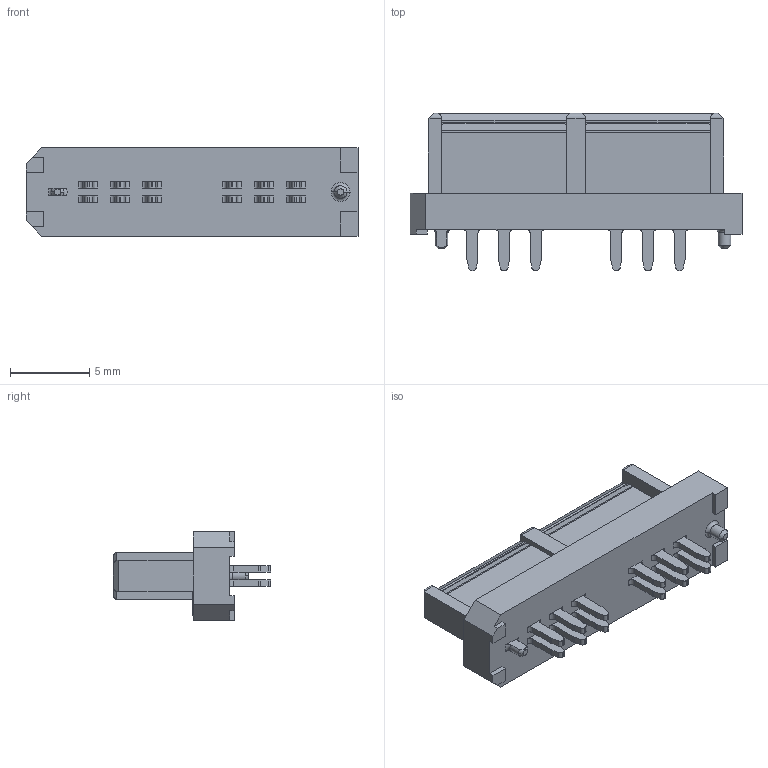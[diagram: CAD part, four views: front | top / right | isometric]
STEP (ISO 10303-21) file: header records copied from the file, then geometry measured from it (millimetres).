
FILE_DESCRIPTION(/* description */ (''),/* implementation_level */ '2;1');
FILE_NAME(/* name */ '3D_PDC1110B0005.stp',/* time_stamp */ '2022-02-17T18:17:58+08:00',/* author */ (''),/* organization */ ('Prolanv'),/* preprocessor_version */ 'ST-DEVELOPER v16.7',/* originating_system */ 'SIEMENS PLM Software NX 1926',/* authorisation */ '');
FILE_SCHEMA (('CONFIG_CONTROL_DESIGN'));
Length unit declared in the file: millimetre
Products named in the file (1): _model1
Bounding box: 21 x 9.95 x 5.6 mm (x, y, z)
Volume: 409.7 mm3; surface area: 749.1 mm2
Topology: 1 solids, 1 shells, 426 faces, 1207 edges, 808 vertices
Faces by surface type: plane 257, cylinder 142, extrusion 19, cone 4, torus 4
Entity records: 14166 total; most frequent: CARTESIAN_POINT 2998, ORIENTED_EDGE 2414, DIRECTION 2192, EDGE_CURVE 1207, VERTEX_POINT 808, VECTOR 798, LINE 779, AXIS2_PLACEMENT_3D 697
